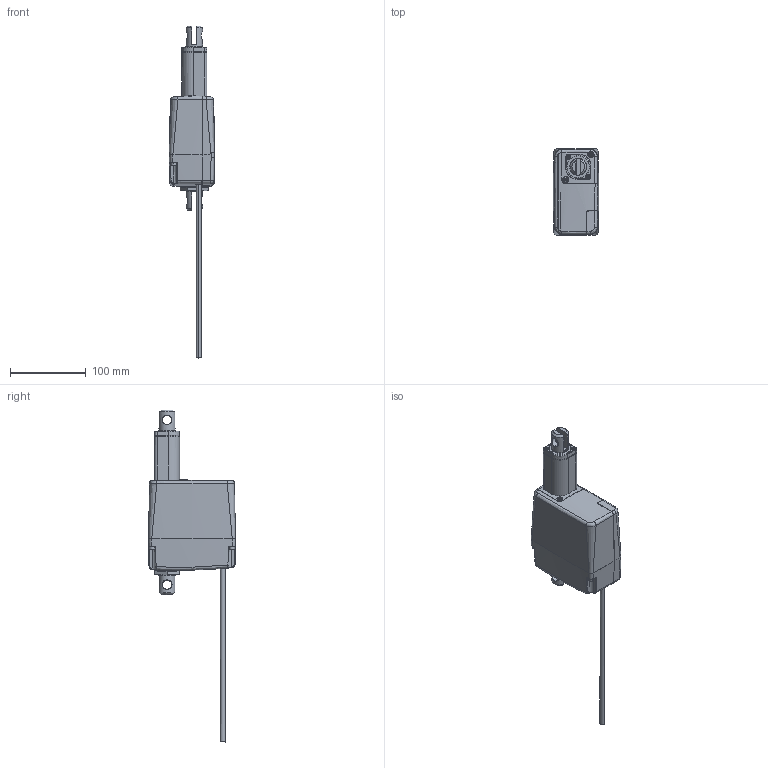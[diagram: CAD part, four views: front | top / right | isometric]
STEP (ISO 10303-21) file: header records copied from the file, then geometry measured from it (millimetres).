
FILE_DESCRIPTION((''),'2;1');
FILE_NAME('MK25-3D-0627_ASM-1_ASM','2025-06-27T',('lily'),(''),'PRO/ENGINEER BY PARAMETRIC TECHNOLOGY CORPORATION, 2016360','PRO/ENGINEER BY PARAMETRIC TECHNOLOGY CORPORATION, 2016360','');
FILE_SCHEMA(('CONFIG_CONTROL_DESIGN'));
Length unit declared in the file: millimetre
Products named in the file (3): MSBR-2; MSBR-1; MK25-3D-0627_ASM-1_ASM
Assembly tree (2 placements, depth 2):
  MK25-3D-0627_ASM-1_ASM
    MSBR-2
    MSBR-1
Bounding box: 60 x 115 x 439 mm (x, y, z)
Volume: 343657.4 mm3; surface area: 156945.2 mm2
Topology: 2 solids, 18 shells, 1803 faces, 4951 edges, 3095 vertices
Faces by surface type: plane 684, cylinder 485, bspline 243, cone 184, torus 180, sphere 24, extrusion 3
Entity records: 75076 total; most frequent: CARTESIAN_POINT 31850, ORIENTED_EDGE 9878, DIRECTION 8033, EDGE_CURVE 4939, VERTEX_POINT 3095, AXIS2_PLACEMENT_3D 3054, VECTOR 1925, LINE 1922
